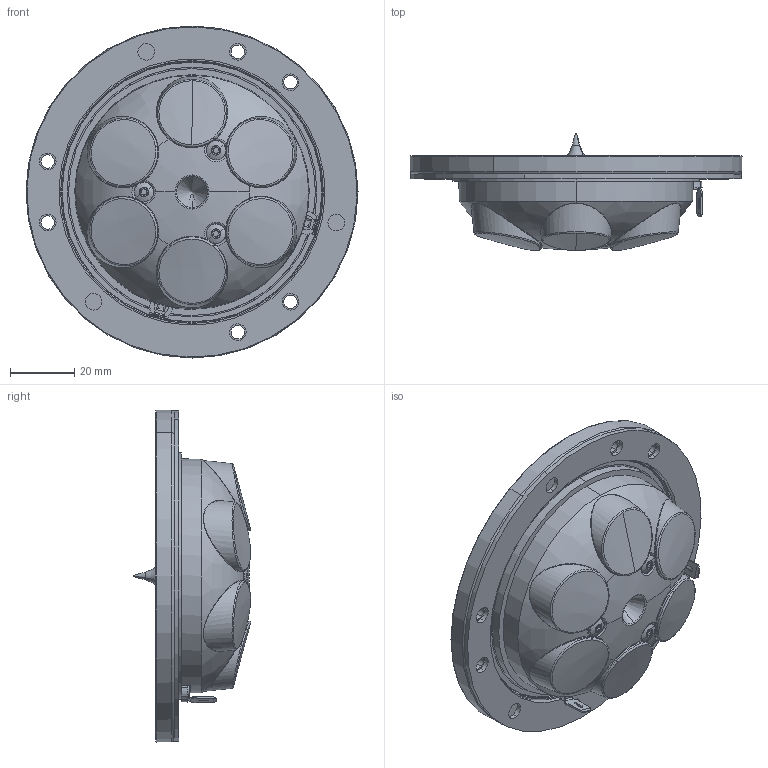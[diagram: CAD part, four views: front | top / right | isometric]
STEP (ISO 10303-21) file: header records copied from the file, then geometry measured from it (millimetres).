
FILE_DESCRIPTION (( 'STEP AP214' ), '1' );
FILE_NAME ('R3004-662000.STEP', '2020-10-28T10:20:38', ( '' ), ( '' ), 'SwSTEP 2.0', 'SolidWorks 2019', '' );
FILE_SCHEMA (( 'AUTOMOTIVE_DESIGN' ));
Length unit declared in the file: millimetre
Products named in the file (1): R3004-662000
Bounding box: 103.55 x 36.54 x 103.55 mm (x, y, z)
Volume: 116804.3 mm3; surface area: 42763.7 mm2
Topology: 2 solids, 18 shells, 702 faces, 1763 edges, 1108 vertices
Faces by surface type: cylinder 194, bspline 171, plane 152, torus 94, cone 81, sphere 10
Entity records: 47051 total; most frequent: CARTESIAN_POINT 24204, ORIENTED_EDGE 3510, DIRECTION 3008, EDGE_CURVE 1755, AXIS2_PLACEMENT_3D 1296, VERTEX_POINT 1108, CIRCLE 764, EDGE_LOOP 745
